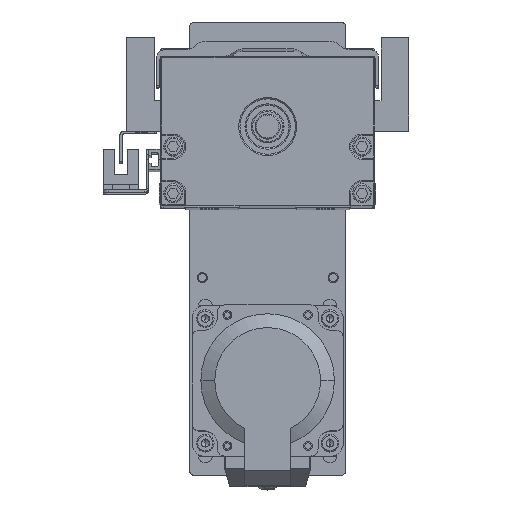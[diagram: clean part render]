
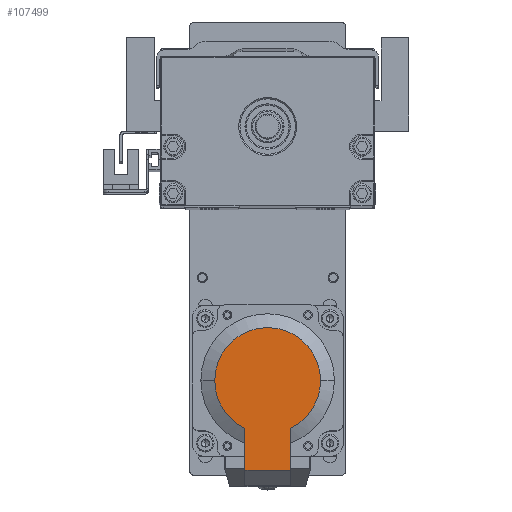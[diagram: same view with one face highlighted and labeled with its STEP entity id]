
A CAD part, top view. The second image highlights one B-rep face of the part: STEP entity #107499.
In plain terms, the highlighted planar face has unit normal (0, 0, 1).
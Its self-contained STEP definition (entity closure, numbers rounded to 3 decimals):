
#213 = AXIS2_PLACEMENT_3D ( 'NONE', #127213, #3449, #14254 ) ;
#1077 = VECTOR ( 'NONE', #78796, 1000. ) ;
#2679 = DIRECTION ( 'NONE',  ( 0., 1., 0. ) ) ;
#3371 = CARTESIAN_POINT ( 'NONE',  ( 104.751, 3.277, 500.168 ) ) ;
#3449 = DIRECTION ( 'NONE',  ( 0., 0., 1. ) ) ;
#3658 = DIRECTION ( 'NONE',  ( 0., 0., 1. ) ) ;
#5708 = DIRECTION ( 'NONE',  ( 0., 1., 0. ) ) ;
#8709 = FACE_OUTER_BOUND ( 'NONE', #17605, .T. ) ;
#13529 = VERTEX_POINT ( 'NONE', #13993 ) ;
#13993 = CARTESIAN_POINT ( 'NONE',  ( 85.777, 33.277, 500.168 ) ) ;
#14254 = DIRECTION ( 'NONE',  ( 0., 1., 0. ) ) ;
#15520 = ORIENTED_EDGE ( 'NONE', *, *, #100167, .F. ) ;
#16141 = VERTEX_POINT ( 'NONE', #55983 ) ;
#16565 = DIRECTION ( 'NONE',  ( 0., 0., 1. ) ) ;
#17605 = EDGE_LOOP ( 'NONE', ( #21818, #67507, #119547, #117916, #141010, #15520 ) ) ;
#18052 = VERTEX_POINT ( 'NONE', #3371 ) ;
#20010 = EDGE_CURVE ( 'NONE', #13529, #116834, #98100, .T. ) ;
#21818 = ORIENTED_EDGE ( 'NONE', *, *, #65903, .F. ) ;
#22636 = CARTESIAN_POINT ( 'NONE',  ( 121.36, 21.277, 500.168 ) ) ;
#23036 = DIRECTION ( 'NONE',  ( 0., 1., 0. ) ) ;
#25128 = EDGE_CURVE ( 'NONE', #18052, #103255, #92326, .T. ) ;
#27573 = VECTOR ( 'NONE', #28248, 1000. ) ;
#28248 = DIRECTION ( 'NONE',  ( 1., 0., 0. ) ) ;
#40916 = CARTESIAN_POINT ( 'NONE',  ( 121.36, 3.277, 500.168 ) ) ;
#43453 = VERTEX_POINT ( 'NONE', #109035 ) ;
#46441 = CARTESIAN_POINT ( 'NONE',  ( 85.777, 12.277, 500.168 ) ) ;
#48260 = CARTESIAN_POINT ( 'NONE',  ( 85.777, 12.277, 500.168 ) ) ;
#51699 = LINE ( 'NONE', #22636, #1077 ) ;
#55134 = AXIS2_PLACEMENT_3D ( 'NONE', #46441, #91020, #23036 ) ;
#55983 = CARTESIAN_POINT ( 'NONE',  ( 104.751, 21.277, 500.168 ) ) ;
#56263 = CARTESIAN_POINT ( 'NONE',  ( 121.36, 21.277, 500.168 ) ) ;
#58436 = CARTESIAN_POINT ( 'NONE',  ( 85.777, 12.277, 500.168 ) ) ;
#63037 = AXIS2_PLACEMENT_3D ( 'NONE', #48260, #16565, #5708 ) ;
#64353 = EDGE_CURVE ( 'NONE', #16141, #13529, #73575, .T. ) ;
#65903 = EDGE_CURVE ( 'NONE', #16141, #43453, #144758, .T. ) ;
#66551 = DIRECTION ( 'NONE',  ( 1., 0., 0. ) ) ;
#67507 = ORIENTED_EDGE ( 'NONE', *, *, #64353, .T. ) ;
#73575 = CIRCLE ( 'NONE', #55134, 21. ) ;
#74613 = AXIS2_PLACEMENT_3D ( 'NONE', #58436, #3658, #2679 ) ;
#76409 = VECTOR ( 'NONE', #66551, 1000. ) ;
#78796 = DIRECTION ( 'NONE',  ( 0., -1., 0. ) ) ;
#89873 = CARTESIAN_POINT ( 'NONE',  ( 121.36, 3.277, 500.168 ) ) ;
#91020 = DIRECTION ( 'NONE',  ( 0., 0., 1. ) ) ;
#92326 = LINE ( 'NONE', #40916, #27573 ) ;
#98100 = CIRCLE ( 'NONE', #74613, 21. ) ;
#100167 = EDGE_CURVE ( 'NONE', #43453, #103255, #51699, .T. ) ;
#101592 = EDGE_CURVE ( 'NONE', #116834, #18052, #117644, .T. ) ;
#103255 = VERTEX_POINT ( 'NONE', #89873 ) ;
#106557 = CARTESIAN_POINT ( 'NONE',  ( 85.777, -8.723, 500.168 ) ) ;
#107499 = ADVANCED_FACE ( 'NONE', ( #8709 ), #134141, .T. ) ;
#109035 = CARTESIAN_POINT ( 'NONE',  ( 121.36, 21.277, 500.168 ) ) ;
#116834 = VERTEX_POINT ( 'NONE', #106557 ) ;
#117644 = CIRCLE ( 'NONE', #63037, 21. ) ;
#117916 = ORIENTED_EDGE ( 'NONE', *, *, #101592, .T. ) ;
#119547 = ORIENTED_EDGE ( 'NONE', *, *, #20010, .T. ) ;
#127213 = CARTESIAN_POINT ( 'NONE',  ( 85.777, 33.277, 500.168 ) ) ;
#134141 = PLANE ( 'NONE',  #213 ) ;
#141010 = ORIENTED_EDGE ( 'NONE', *, *, #25128, .T. ) ;
#144758 = LINE ( 'NONE', #56263, #76409 ) ;
